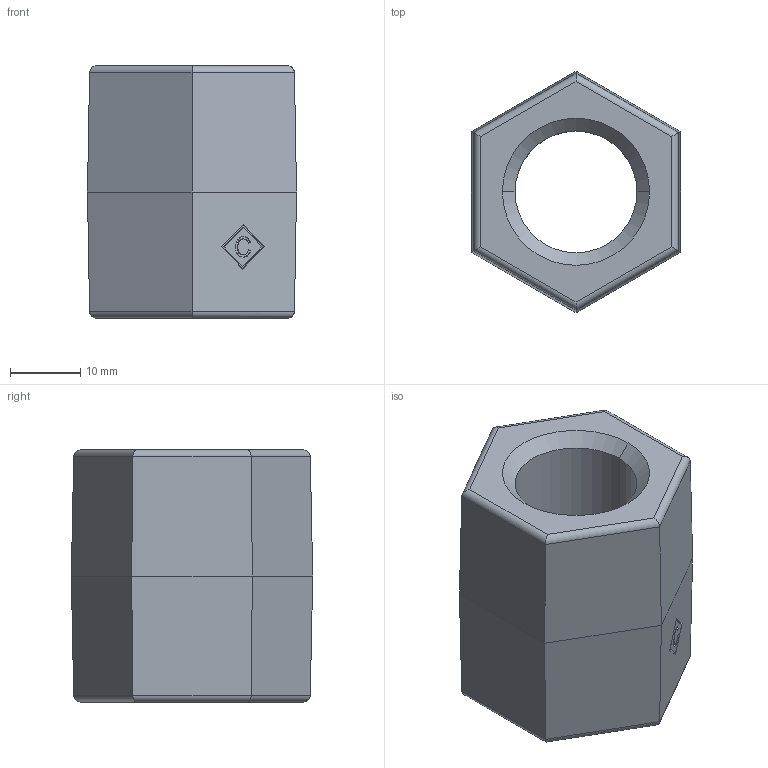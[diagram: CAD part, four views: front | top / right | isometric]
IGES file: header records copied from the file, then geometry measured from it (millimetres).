
Global section: file name: No Iges File Name specified; native system: AutoDesk Inventor R12.0; preprocessor: AutoDesk Inventor Iges Exporter R12.0; date: 20090916.163523; units: millimetre
Bounding box: 29.83 x 34.44 x 36 mm (x, y, z)
Volume: 18366.8 mm3; surface area: 6469.1 mm2
Topology: 1 solids, 1 shells, 53 faces, 122 edges, 74 vertices
Faces by surface type: plane 20, bspline 15, cylinder 12, revolution 6
